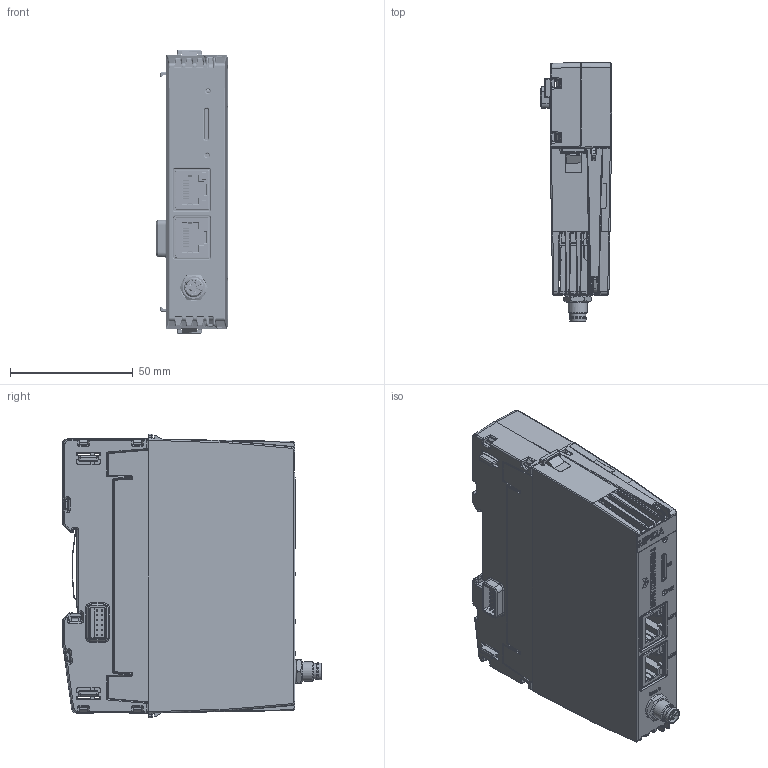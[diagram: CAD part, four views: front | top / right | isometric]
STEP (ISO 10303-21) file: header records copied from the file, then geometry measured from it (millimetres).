
FILE_DESCRIPTION(/* description */ (''),/* implementation_level */ '2;1');
FILE_NAME(/* name */ 'C:\Users\Public\Documents\Autodesk\Inventor 2023\MP32A_REVB_Simplified+BB61B.stp',/* time_stamp */ '2024-10-19T23:50:57+02:00',/* author */ ('shoma'),/* organization */ (''),/* preprocessor_version */ 'ST-DEVELOPER v19',/* originating_system */ 'Autodesk Inventor 2023',/* authorisation */ '');
FILE_SCHEMA (('AUTOMOTIVE_DESIGN { 1 0 10303 214 3 1 1 }'));
Products named in the file (1): MP32A_REVB_Simplified+BB61B
Bounding box: 28.9 x 105.31 x 115.5 mm (x, y, z)
Volume: 111665 mm3; surface area: 84410.2 mm2
Topology: 10 solids, 11 shells, 6614 faces, 17925 edges, 11248 vertices
Faces by surface type: plane 3893, cylinder 1790, bspline 635, sphere 188, torus 70, cone 38
Full cylindrical faces by diameter (mm): 0.3 x39, 0.5 x2, 0.7 x36, 0.75 x2, 0.8 x17, 0.85 x24, 0.9 x28, 1 x8, 1.02 x8, 1.1 x1, 1.3 x4, 1.4 x4, 1.6 x3, 1.7 x4, 2.35 x2, 2.5 x1, 3 x3, 3.2 x4, 3.25 x2, 5.8 x1, 6.5 x1, 6.9 x1, 6.917 x1, 7.896 x1, 8.416 x2, 9 x1, 10.69 x1
Entity records: 233482 total; most frequent: CARTESIAN_POINT 61646, ORIENTED_EDGE 35480, DIRECTION 32891, EDGE_CURVE 17740, LINE 12533, VECTOR 12533, VERTEX_POINT 11248, AXIS2_PLACEMENT_3D 10179
